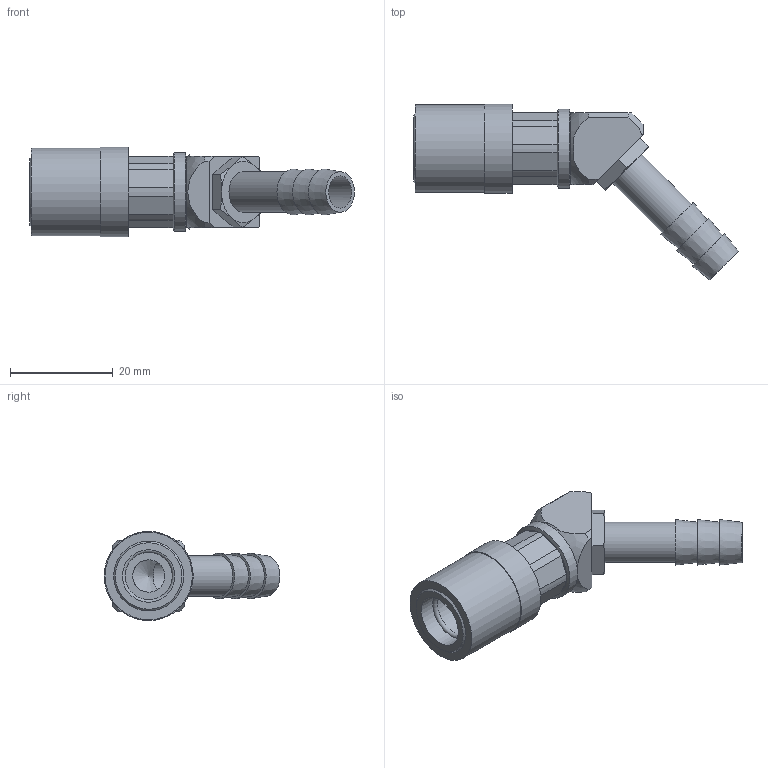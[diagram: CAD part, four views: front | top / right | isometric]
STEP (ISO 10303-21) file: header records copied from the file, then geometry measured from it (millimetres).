
FILE_DESCRIPTION(/* description */ ('STEP AP214'),/* implementation_level */ '2;1');
FILE_NAME(/* name */ 'JS-225-V',/* time_stamp */ '2024-12-19T08:42:18+01:00',/* author */ ('License CC BY-ND 4.0'),/* organization */ ('CADENAS'),/* preprocessor_version */ 'ST-DEVELOPER v19.3',/* originating_system */ 'PARTsolutions',/* authorisation */ ' ');
FILE_SCHEMA (('AUTOMOTIVE_DESIGN {1 0 10303 214 3 1 1}'));
Length unit declared in the file: inch
Products named in the file (1): JS-225-V
Bounding box: 63.24 x 34.23 x 17.36 mm (x, y, z)
Volume: 7080.5 mm3; surface area: 5004.7 mm2
Topology: 1 solids, 1 shells, 82 faces, 178 edges, 115 vertices
Faces by surface type: plane 56, cone 13, cylinder 9, sphere 3, torus 1
Full cylindrical faces by diameter (mm): 6.299 x2, 7.874 x1, 10.211 x2, 13.97 x1, 15.367 x1, 17.018 x1, 17.358 x1
Entity records: 2176 total; most frequent: CARTESIAN_POINT 392, DIRECTION 388, ORIENTED_EDGE 310, AXIS2_PLACEMENT_3D 163, EDGE_CURVE 155, FACE_BOUND 120, EDGE_LOOP 119, VERTEX_POINT 111
